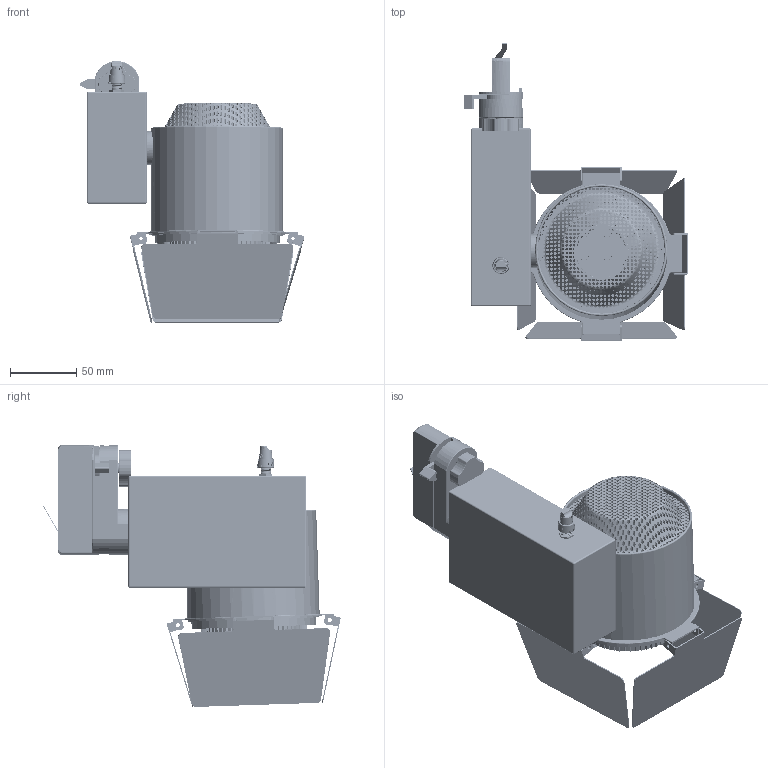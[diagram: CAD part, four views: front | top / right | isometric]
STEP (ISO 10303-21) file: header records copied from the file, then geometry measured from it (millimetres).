
FILE_DESCRIPTION (( 'STEP AP214' ), '1' );
FILE_NAME ('Space Zoom30.STEP', '2025-03-27T09:07:27', ( '' ), ( '' ), 'SwSTEP 2.0', 'SolidWorks 2023', '' );
FILE_SCHEMA (( 'AUTOMOTIVE_DESIGN' ));
Length unit declared in the file: millimetre
Products named in the file (8): 折菲叶; 灯筒; 轨道头; 69蛙眼40焦距B; 控制盒; Space Zoom30; 镜头; 折菲固定圈
Assembly tree (10 placements, depth 2):
  Space Zoom30
    控制盒
    镜头
    灯筒
    折菲固定圈
    折菲叶  x4
    69蛙眼40焦距B
    轨道头
Bounding box: 170.17 x 225.12 x 198.09 mm (x, y, z)
Volume: 778034.5 mm3; surface area: 234606.4 mm2
Topology: 12 solids, 12 shells, 2327 faces, 8052 edges, 5356 vertices
Faces by surface type: cylinder 1306, plane 577, torus 220, cone 188, sphere 29, bspline 7
Full cylindrical faces by diameter (mm): 2 x829, 3 x16, 10 x1, 14 x1, 20 x1, 23 x1, 25.6 x1, 28 x1, 69.25 x1, 80 x1, 94 x1, 94.5 x2, 96 x1, 99.8 x1, 100 x1
Entity records: 114787 total; most frequent: CARTESIAN_POINT 53435, ORIENTED_EDGE 12462, DIRECTION 11643, EDGE_CURVE 6231, AXIS2_PLACEMENT_3D 4952, VERTEX_POINT 4517, EDGE_LOOP 4440, FACE_OUTER_BOUND 3132
